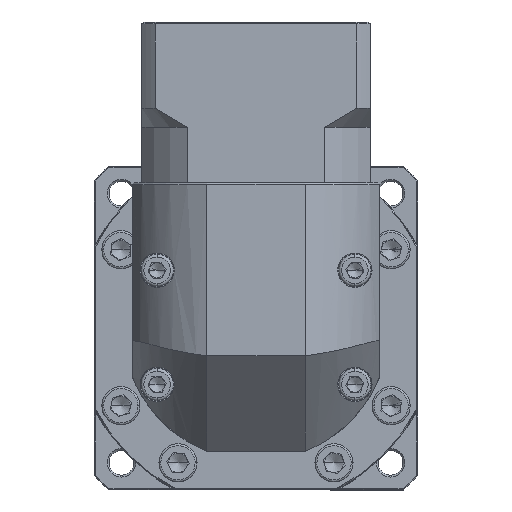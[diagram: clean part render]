
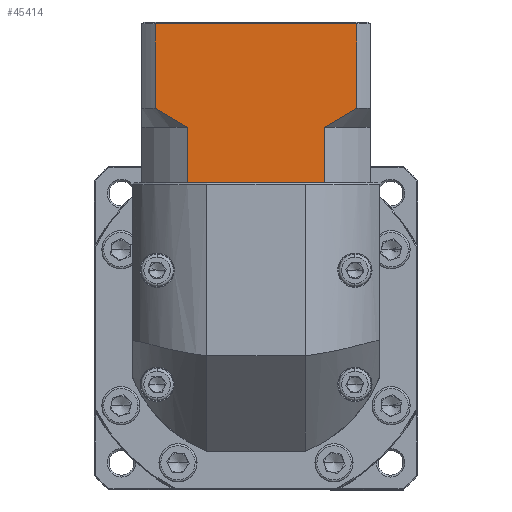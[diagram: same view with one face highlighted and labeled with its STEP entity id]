
A CAD part, top view. The second image highlights one B-rep face of the part: STEP entity #45414.
In plain terms, the highlighted planar face has unit normal (0, 0, 1).
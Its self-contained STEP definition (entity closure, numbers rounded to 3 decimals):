
#3573 = VERTEX_POINT ( 'NONE', #88318 ) ;
#5111 = DIRECTION ( 'NONE',  ( 0., 1., 0. ) ) ;
#6446 = EDGE_CURVE ( 'NONE', #34875, #12190, #38612, .T. ) ;
#6511 = DIRECTION ( 'NONE',  ( 0., 1., 0. ) ) ;
#9500 = CARTESIAN_POINT ( 'NONE',  ( -106.483, 82.699, 55.04 ) ) ;
#11343 = VERTEX_POINT ( 'NONE', #83595 ) ;
#12190 = VERTEX_POINT ( 'NONE', #75225 ) ;
#14420 = ORIENTED_EDGE ( 'NONE', *, *, #28918, .F. ) ;
#16174 = DIRECTION ( 'NONE',  ( 0., -1., 0. ) ) ;
#17014 = EDGE_CURVE ( 'NONE', #69434, #12190, #43632, .T. ) ;
#18606 = CARTESIAN_POINT ( 'NONE',  ( -111.386, 105.798, 55.04 ) ) ;
#19763 = ORIENTED_EDGE ( 'NONE', *, *, #132698, .T. ) ;
#20778 = CARTESIAN_POINT ( 'NONE',  ( -107.843, 83.598, 55.04 ) ) ;
#21261 = CARTESIAN_POINT ( 'NONE',  ( -105.105, 81.826, 55.04 ) ) ;
#22261 = CARTESIAN_POINT ( 'NONE',  ( -99.414, 78.598, 55.04 ) ) ;
#24714 = FACE_OUTER_BOUND ( 'NONE', #126752, .T. ) ;
#25274 = EDGE_CURVE ( 'NONE', #34875, #132897, #127070, .T. ) ;
#26179 = CARTESIAN_POINT ( 'NONE',  ( -60.476, 80.149, 55.04 ) ) ;
#27568 = ORIENTED_EDGE ( 'NONE', *, *, #17014, .T. ) ;
#28918 = EDGE_CURVE ( 'NONE', #94739, #132897, #120768, .T. ) ;
#30026 = DIRECTION ( 'NONE',  ( 1., 0., 0. ) ) ;
#30163 = PLANE ( 'NONE',  #40993 ) ;
#33726 = CARTESIAN_POINT ( 'NONE',  ( -99.414, 78.598, 55.04 ) ) ;
#34875 = VERTEX_POINT ( 'NONE', #105940 ) ;
#36219 = VERTEX_POINT ( 'NONE', #120806 ) ;
#36248 = VECTOR ( 'NONE', #135250, 1000. ) ;
#37413 = EDGE_CURVE ( 'NONE', #11343, #60804, #76820, .T. ) ;
#38612 = LINE ( 'NONE', #60039, #84337 ) ;
#40126 = ORIENTED_EDGE ( 'NONE', *, *, #149825, .F. ) ;
#40993 = AXIS2_PLACEMENT_3D ( 'NONE', #111198, #64915, #123945 ) ;
#43632 = LINE ( 'NONE', #89470, #36248 ) ;
#44679 = CARTESIAN_POINT ( 'NONE',  ( -102.297, 80.15, 55.04 ) ) ;
#45414 = ADVANCED_FACE ( 'NONE', ( #24714 ), #30163, .F. ) ;
#48038 = CARTESIAN_POINT ( 'NONE',  ( -98.423, 64.098, 55.04 ) ) ;
#52428 = VECTOR ( 'NONE', #134667, 1000. ) ;
#55416 = EDGE_CURVE ( 'NONE', #36219, #87388, #70887, .T. ) ;
#56386 = CARTESIAN_POINT ( 'NONE',  ( -100.866, 79.346, 55.04 ) ) ;
#59805 = LINE ( 'NONE', #18606, #52428 ) ;
#60039 = CARTESIAN_POINT ( 'NONE',  ( -63.358, 78.598, 55.04 ) ) ;
#60804 = VERTEX_POINT ( 'NONE', #48038 ) ;
#62815 = VECTOR ( 'NONE', #6511, 1000. ) ;
#64755 = CARTESIAN_POINT ( 'NONE',  ( -111.386, 64.098, 55.04 ) ) ;
#64915 = DIRECTION ( 'NONE',  ( 0., 0., -1. ) ) ;
#68277 = CARTESIAN_POINT ( 'NONE',  ( -64.349, 64.098, 55.04 ) ) ;
#69434 = VERTEX_POINT ( 'NONE', #68277 ) ;
#70376 = CARTESIAN_POINT ( 'NONE',  ( -111.386, 64.098, 55.04 ) ) ;
#70887 = B_SPLINE_CURVE_WITH_KNOTS ( 'NONE', 3,
 ( #20778, #9500, #21261, #44679, #56386, #22261 ),
 .UNSPECIFIED., .F., .F.,
 ( 4, 2, 4 ),
 ( 0.052, 0.057, 0.062 ),
 .UNSPECIFIED. ) ;
#73584 = CARTESIAN_POINT ( 'NONE',  ( -57.671, 81.823, 55.04 ) ) ;
#75225 = CARTESIAN_POINT ( 'NONE',  ( -63.358, 64.098, 55.04 ) ) ;
#76820 = LINE ( 'NONE', #70376, #127748 ) ;
#82594 = DIRECTION ( 'NONE',  ( 1., 0., 0. ) ) ;
#83595 = CARTESIAN_POINT ( 'NONE',  ( -99.414, 64.098, 55.04 ) ) ;
#84337 = VECTOR ( 'NONE', #16174, 1000. ) ;
#86679 = CARTESIAN_POINT ( 'NONE',  ( -99.414, 78.598, 55.04 ) ) ;
#87388 = VERTEX_POINT ( 'NONE', #33726 ) ;
#88318 = CARTESIAN_POINT ( 'NONE',  ( -107.843, 105.798, 55.04 ) ) ;
#88351 = CARTESIAN_POINT ( 'NONE',  ( -54.928, 78.598, 55.04 ) ) ;
#89470 = CARTESIAN_POINT ( 'NONE',  ( -111.386, 64.098, 55.04 ) ) ;
#91382 = ORIENTED_EDGE ( 'NONE', *, *, #25274, .T. ) ;
#93305 = CARTESIAN_POINT ( 'NONE',  ( -54.928, 105.798, 55.04 ) ) ;
#94739 = VERTEX_POINT ( 'NONE', #93305 ) ;
#94790 = LINE ( 'NONE', #86679, #118396 ) ;
#101860 = ORIENTED_EDGE ( 'NONE', *, *, #129125, .T. ) ;
#105940 = CARTESIAN_POINT ( 'NONE',  ( -63.358, 78.598, 55.04 ) ) ;
#109694 = DIRECTION ( 'NONE',  ( 0., -1., 0. ) ) ;
#111198 = CARTESIAN_POINT ( 'NONE',  ( -111.386, 106.298, 55.04 ) ) ;
#113536 = VECTOR ( 'NONE', #30026, 1000. ) ;
#116985 = ORIENTED_EDGE ( 'NONE', *, *, #55416, .T. ) ;
#118348 = CARTESIAN_POINT ( 'NONE',  ( -56.291, 82.697, 55.04 ) ) ;
#118396 = VECTOR ( 'NONE', #5111, 1000. ) ;
#120768 = LINE ( 'NONE', #88351, #148089 ) ;
#120806 = CARTESIAN_POINT ( 'NONE',  ( -107.843, 83.598, 55.04 ) ) ;
#120815 = LINE ( 'NONE', #64755, #113536 ) ;
#121088 = LINE ( 'NONE', #134396, #62815 ) ;
#123945 = DIRECTION ( 'NONE',  ( 0., 1., 0. ) ) ;
#126752 = EDGE_LOOP ( 'NONE', ( #14420, #19763, #40126, #116985, #139845, #144115, #101860, #27568, #148927, #91382 ) ) ;
#127070 = B_SPLINE_CURVE_WITH_KNOTS ( 'NONE', 3,
 ( #142264, #141760, #26179, #73584, #118348, #131085 ),
 .UNSPECIFIED., .F., .F.,
 ( 4, 2, 4 ),
 ( 0.1, 0.104, 0.109 ),
 .UNSPECIFIED. ) ;
#127748 = VECTOR ( 'NONE', #82594, 1000. ) ;
#129125 = EDGE_CURVE ( 'NONE', #60804, #69434, #120815, .T. ) ;
#131085 = CARTESIAN_POINT ( 'NONE',  ( -54.928, 83.598, 55.04 ) ) ;
#132698 = EDGE_CURVE ( 'NONE', #94739, #3573, #59805, .T. ) ;
#132897 = VERTEX_POINT ( 'NONE', #149389 ) ;
#133879 = EDGE_CURVE ( 'NONE', #11343, #87388, #94790, .T. ) ;
#134396 = CARTESIAN_POINT ( 'NONE',  ( -107.843, 78.598, 55.04 ) ) ;
#134667 = DIRECTION ( 'NONE',  ( -1., 0., 0. ) ) ;
#135250 = DIRECTION ( 'NONE',  ( 1., 0., 0. ) ) ;
#139845 = ORIENTED_EDGE ( 'NONE', *, *, #133879, .F. ) ;
#141760 = CARTESIAN_POINT ( 'NONE',  ( -61.902, 79.349, 55.04 ) ) ;
#142264 = CARTESIAN_POINT ( 'NONE',  ( -63.358, 78.598, 55.04 ) ) ;
#144115 = ORIENTED_EDGE ( 'NONE', *, *, #37413, .T. ) ;
#148089 = VECTOR ( 'NONE', #109694, 1000. ) ;
#148927 = ORIENTED_EDGE ( 'NONE', *, *, #6446, .F. ) ;
#149389 = CARTESIAN_POINT ( 'NONE',  ( -54.928, 83.598, 55.04 ) ) ;
#149825 = EDGE_CURVE ( 'NONE', #36219, #3573, #121088, .T. ) ;
